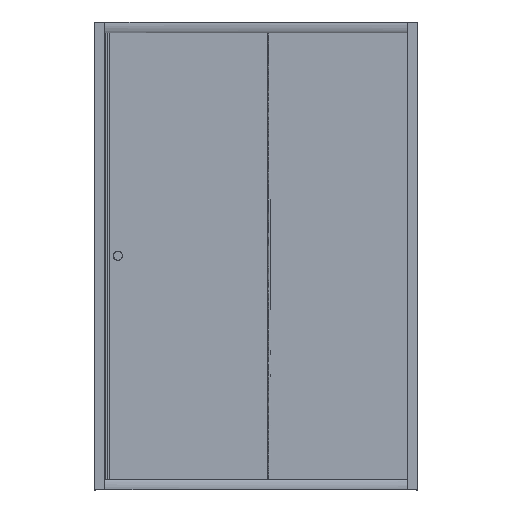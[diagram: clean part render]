
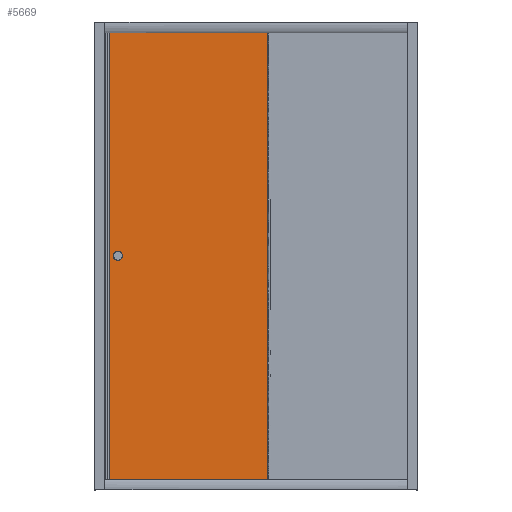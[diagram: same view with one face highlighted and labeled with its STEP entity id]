
A CAD part, top view. The second image highlights one B-rep face of the part: STEP entity #5669.
In plain terms, the highlighted planar face has unit normal (0, 0, 1).
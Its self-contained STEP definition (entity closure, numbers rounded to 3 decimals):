
#276=FACE_OUTER_BOUND('',#578,.T.);
#578=EDGE_LOOP('',(#4108,#4109,#4110,#4111));
#1062=LINE('',#9068,#1756);
#1063=LINE('',#9071,#1757);
#1064=LINE('',#9073,#1758);
#1065=LINE('',#9074,#1759);
#1756=VECTOR('',#6797,10.);
#1757=VECTOR('',#6800,10.);
#1758=VECTOR('',#6801,10.);
#1759=VECTOR('',#6802,10.);
#2364=VERTEX_POINT('',#9064);
#2365=VERTEX_POINT('',#9066);
#2366=VERTEX_POINT('',#9070);
#2367=VERTEX_POINT('',#9072);
#2994=EDGE_CURVE('',#2364,#2365,#1062,.T.);
#2995=EDGE_CURVE('',#2366,#2364,#1063,.T.);
#2996=EDGE_CURVE('',#2367,#2365,#1064,.T.);
#2997=EDGE_CURVE('',#2366,#2367,#1065,.T.);
#4108=ORIENTED_EDGE('',*,*,#2995,.T.);
#4109=ORIENTED_EDGE('',*,*,#2994,.T.);
#4110=ORIENTED_EDGE('',*,*,#2996,.F.);
#4111=ORIENTED_EDGE('',*,*,#2997,.F.);
#5094=PLANE('',#6016);
#5669=ADVANCED_FACE('',(#276),#5094,.T.);
#6016=AXIS2_PLACEMENT_3D('',#9069,#6798,#6799);
#6797=DIRECTION('',(0.,1.,0.));
#6798=DIRECTION('center_axis',(0.,0.,
1.));
#6799=DIRECTION('ref_axis',(1.,0.,0.));
#6800=DIRECTION('',(1.,0.,0.));
#6801=DIRECTION('',(1.,0.,0.));
#6802=DIRECTION('',(0.,1.,0.));
#9064=CARTESIAN_POINT('',(-2017.932,2711.979,3.361));
#9066=CARTESIAN_POINT('',(-2017.932,4495.979,3.361));
#9068=CARTESIAN_POINT('',(-2017.932,2711.979,3.361));
#9069=CARTESIAN_POINT('Origin',(-2660.432,2711.979,3.361));
#9070=CARTESIAN_POINT('',(-2660.432,2711.979,3.361));
#9071=CARTESIAN_POINT('',(-2660.432,2711.979,3.361));
#9072=CARTESIAN_POINT('',(-2660.432,4495.979,3.361));
#9073=CARTESIAN_POINT('',(-2660.432,4495.979,3.361));
#9074=CARTESIAN_POINT('',(-2660.432,2711.979,3.361));
